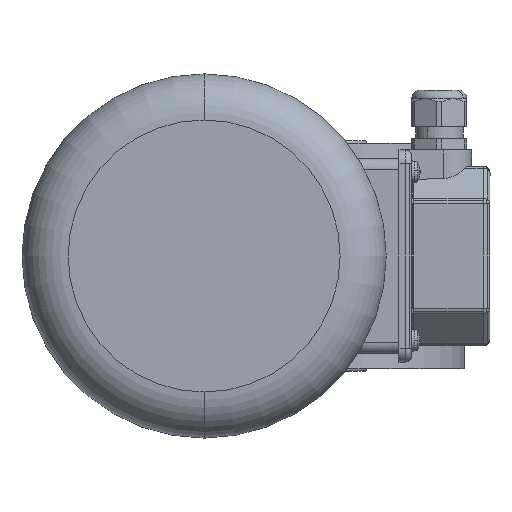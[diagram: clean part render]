
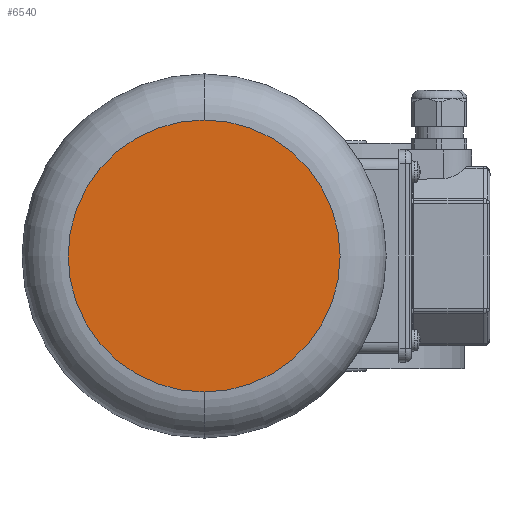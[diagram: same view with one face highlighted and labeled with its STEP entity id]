
A CAD part, left-side view. The second image highlights one B-rep face of the part: STEP entity #6540.
In plain terms, the highlighted planar face has unit normal (-1, 0, 0) as drawn and (1, 0, 0) by its records, which use the part's own axes.
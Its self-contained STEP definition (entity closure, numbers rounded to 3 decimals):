
#482 = CARTESIAN_POINT ( 'NONE',  ( 234., 0., 0. ) ) ;
#1103 = EDGE_LOOP ( 'NONE', ( #18191, #4124 ) ) ;
#1503 = CARTESIAN_POINT ( 'NONE',  ( 234., 0., 0. ) ) ;
#3547 = AXIS2_PLACEMENT_3D ( 'NONE', #482, #15956, #10528 ) ;
#4001 = CIRCLE ( 'NONE', #12379, 59. ) ;
#4049 = CARTESIAN_POINT ( 'NONE',  ( 234., 0., 59. ) ) ;
#4124 = ORIENTED_EDGE ( 'NONE', *, *, #21967, .F. ) ;
#6540 = ADVANCED_FACE ( 'NONE', ( #8811 ), #11746, .F. ) ;
#8811 = FACE_OUTER_BOUND ( 'NONE', #1103, .T. ) ;
#10528 = DIRECTION ( 'NONE',  ( 0., 0., 1. ) ) ;
#11698 = DIRECTION ( 'NONE',  ( 0., 0., 1. ) ) ;
#11746 = PLANE ( 'NONE',  #21658 ) ;
#12379 = AXIS2_PLACEMENT_3D ( 'NONE', #1503, #32328, #11698 ) ;
#15956 = DIRECTION ( 'NONE',  ( -1., 0., 0. ) ) ;
#16055 = CARTESIAN_POINT ( 'NONE',  ( 234., 0., 0. ) ) ;
#16551 = DIRECTION ( 'NONE',  ( -1., 0., 0. ) ) ;
#18191 = ORIENTED_EDGE ( 'NONE', *, *, #20184, .F. ) ;
#19238 = VERTEX_POINT ( 'NONE', #4049 ) ;
#20184 = EDGE_CURVE ( 'NONE', #19238, #21609, #4001, .T. ) ;
#21609 = VERTEX_POINT ( 'NONE', #31853 ) ;
#21658 = AXIS2_PLACEMENT_3D ( 'NONE', #16055, #16551, #26135 ) ;
#21967 = EDGE_CURVE ( 'NONE', #21609, #19238, #25688, .T. ) ;
#25688 = CIRCLE ( 'NONE', #3547, 59. ) ;
#26135 = DIRECTION ( 'NONE',  ( 0., 0., 1. ) ) ;
#31853 = CARTESIAN_POINT ( 'NONE',  ( 234., 0., -59. ) ) ;
#32328 = DIRECTION ( 'NONE',  ( -1., 0., 0. ) ) ;
